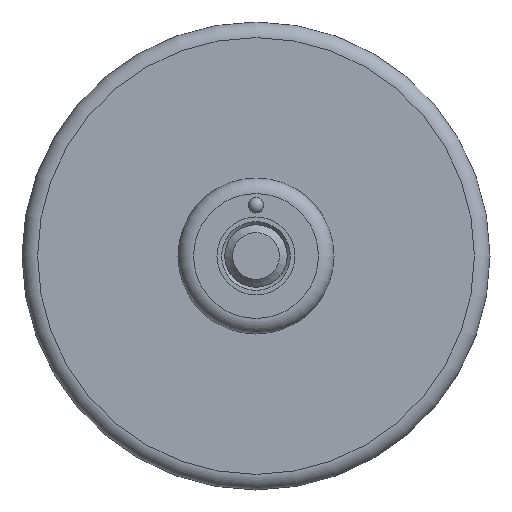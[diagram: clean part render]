
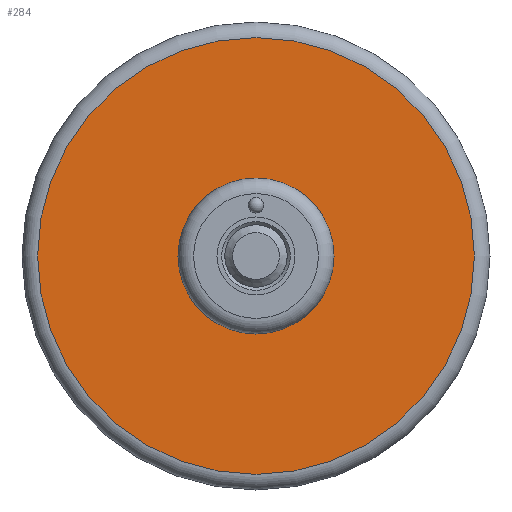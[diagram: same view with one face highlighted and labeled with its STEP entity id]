
A CAD part, left-side view. The second image highlights one B-rep face of the part: STEP entity #284.
In plain terms, the highlighted planar face has unit normal (-1, 0, 0).
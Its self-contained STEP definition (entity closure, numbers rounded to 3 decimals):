
#284 = ADVANCED_FACE( '', ( #664, #665 ), #666, .T. );
#664 = FACE_BOUND( '', #1703, .T. );
#665 = FACE_OUTER_BOUND( '', #1704, .T. );
#666 = PLANE( '', #1705 );
#1703 = EDGE_LOOP( '', ( #2346 ) );
#1704 = EDGE_LOOP( '', ( #2347 ) );
#1705 = AXIS2_PLACEMENT_3D( '', #2348, #2349, #2350 );
#2346 = ORIENTED_EDGE( '', *, *, #2559, .T. );
#2347 = ORIENTED_EDGE( '', *, *, #2717, .T. );
#2348 = CARTESIAN_POINT( '', ( -42.986, 0., 3.4 ) );
#2349 = DIRECTION( '', ( -1., 0., 0. ) );
#2350 = DIRECTION( '', ( 0., 0., 1. ) );
#2559 = EDGE_CURVE( '', #2853, #2853, #2854, .F. );
#2717 = EDGE_CURVE( '', #3086, #3086, #3087, .T. );
#2853 = VERTEX_POINT( '', #3278 );
#2854 = CIRCLE( '', #3279, 5. );
#3086 = VERTEX_POINT( '', #4267 );
#3087 = CIRCLE( '', #4268, 14. );
#3278 = CARTESIAN_POINT( '', ( -42.986, 0., 5. ) );
#3279 = AXIS2_PLACEMENT_3D( '', #4394, #4395, #4396 );
#4267 = CARTESIAN_POINT( '', ( -42.986, 0., 14. ) );
#4268 = AXIS2_PLACEMENT_3D( '', #4593, #4594, #4595 );
#4394 = CARTESIAN_POINT( '', ( -42.986, 0., 0. ) );
#4395 = DIRECTION( '', ( -1., 0., 0. ) );
#4396 = DIRECTION( '', ( 0., 0., 1. ) );
#4593 = CARTESIAN_POINT( '', ( -42.986, 0., 0. ) );
#4594 = DIRECTION( '', ( -1., 0., 0. ) );
#4595 = DIRECTION( '', ( 0., 0., 1. ) );
